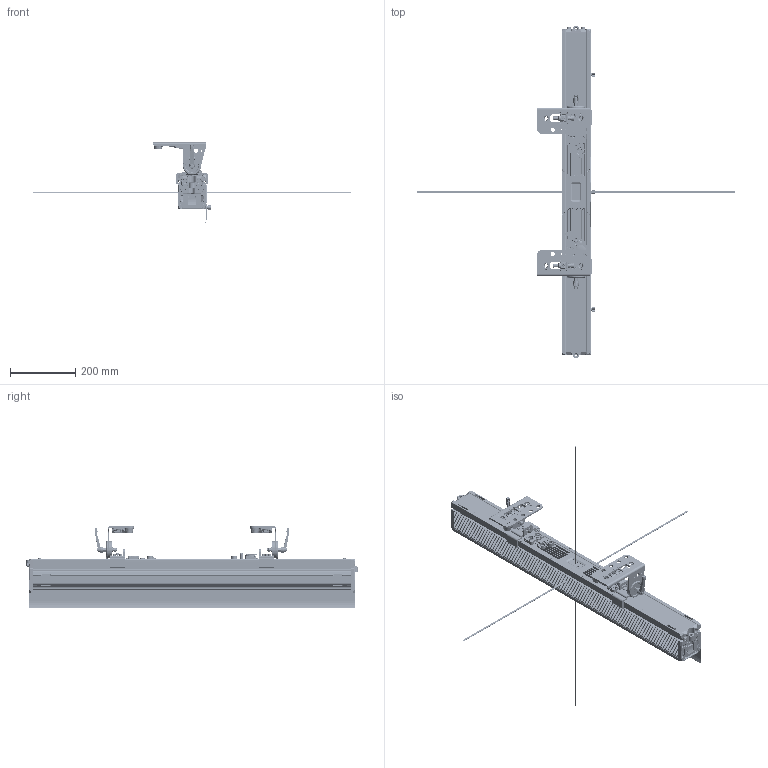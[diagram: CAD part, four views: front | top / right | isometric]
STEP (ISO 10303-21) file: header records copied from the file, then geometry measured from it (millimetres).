
FILE_DESCRIPTION(('HOOPS Exchange Step'),'2;1');
FILE_NAME('E:\cdb\hoops_acs\acs\9788\78027\018199-1-Light Fixture.step','2024-05-13T16:08:29+02:00',('caddok'),('Unknown organisation'),'HOOPS Exchange 2024.0','HOOPS Exchange','Unknown authorisation');
FILE_SCHEMA( ('AP242_MANAGED_MODEL_BASED_3D_ENGINEERING_MIM_LF {1 0 10303 442 1 1 4 }') );
Length unit declared in the file: millimetre
Products named in the file (126): Final_CLPB400G2_LJ-L21901-01-1; Final_CLPB400G2_LJ-L21901-05-1; Final_CLPB400G2_CT-M3-28-1; Final_CLPB400G2_LJ-L20701-25-1; Final_CLPB400G2_LJ-L21901-02-1; Final_CLPB400G2_LJ-L20901-55-1; Final_CLPB400G2_BT-M4-12-1; Final_CLPB400G2_0002_ASM-1; Final_CLPB400G2_0002_ASM-2; Final_CLPB400G2_LJ-L21901-14-1; Final_CLPB400G2_LJ-L21901-13-1; Final_CLPB400G2_LJ-L21901-33-34-35-36-1; Final_CLPB400G2_0001_ASM-1; 017504-1-Side Part-1; Final_CLPB400G2_LJ-L21901-09-1; Final_CLPB400G2_LJ-L21901-15-1; Final_CLPB400G2_LJ-Y31202-40-1; Final_CLPB400G2_LJ-L21901-12-1; Final_CLPB400G2_CT-M3-1; Final_CLPB400G2_LJ-L21901-06-1; Final_CLPB400G2_LJ-L21901-29-1; Final_CLPB400G2_M4X60001-1; Final_CLPB400G2_CT-M3-6-1; Final_CLPB400G2_0004_ASM-1; Final_CLPB400G2_0003_ASM-1; 017505-1-Side Part-1; Final_CLPB400G2_LJ-L21901-11-1; Final_CLPB400G2_0005_ASM-1; Final_CLPB400G2_LJ-L21901-04-1; Final_CLPB400G2_LJ-L21901-10-1; Final_CLPB400G2_LJ-Y35902-22-1; Final_CLPB400G2_LJ-Y35901-12-1; Final_CLPB400G2_LJ-Y37001-21_3-1; Final_CLPB400G2_LJ-Y37001-21-1; Final_CLPB400G2_LJ-Y37001-21_4-1; Final_CLPB400G2_LJ-Y37001-21_2-1; Final_CLPB400G2_LJ-L21901-20_3-1; Final_CLPB400G2_LJ-L21901-20-1; Final_CLPB400G2_LJ-L21901-20_2-1; Final_CLPB400G2_Y421010001_ASM-1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
Assembly tree (226 placements, depth 6):
  018199-1-Light Fixture
    Standard
      Final_CLPB400G2_0001_ASM-1
        Final_CLPB400G2_LJ-L21901-01-1
        Final_CLPB400G2_LJ-L21901-05-1
        Final_CLPB400G2_CT-M3-28-1  x2
        Final_CLPB400G2_LJ-L20701-25-1  x2
        Final_CLPB400G2_0002_ASM-1
          Final_CLPB400G2_LJ-L21901-02-1
          Final_CLPB400G2_LJ-L20901-55-1
          Final_CLPB400G2_BT-M4-12-1  x8
        Final_CLPB400G2_0002_ASM-2
          Final_CLPB400G2_LJ-L21901-02-1
          Final_CLPB400G2_LJ-L20901-55-1
          Final_CLPB400G2_BT-M4-12-1  x8
        Final_CLPB400G2_BT-M4-12-1  x4
        Final_CLPB400G2_LJ-L21901-14-1
        Final_CLPB400G2_LJ-L21901-13-1
        Final_CLPB400G2_LJ-L21901-33-34-35-36-1
      Final_CLPB400G2_0003_ASM-1
        017504-1-Side Part-1
        Final_CLPB400G2_LJ-L21901-09-1
        Final_CLPB400G2_LJ-L21901-15-1
        Final_CLPB400G2_LJ-Y31202-40-1  x2
        Final_CLPB400G2_BT-M4-12-1  x6
        Final_CLPB400G2_LJ-L21901-12-1  x2
        Final_CLPB400G2_CT-M3-1  x6
        Final_CLPB400G2_LJ-L21901-06-1
        Final_CLPB400G2_0004_ASM-1
          Final_CLPB400G2_LJ-L21901-29-1
          Final_CLPB400G2_M4X60001-1
          Final_CLPB400G2_CT-M3-6-1  x2
      Final_CLPB400G2_0005_ASM-1
        017505-1-Side Part-1
        Final_CLPB400G2_LJ-L21901-15-1
        Final_CLPB400G2_BT-M4-12-1  x6
        Final_CLPB400G2_LJ-Y31202-40-1  x2
        Final_CLPB400G2_0004_ASM-1
          Final_CLPB400G2_LJ-L21901-29-1
          Final_CLPB400G2_M4X60001-1
          Final_CLPB400G2_CT-M3-6-1  x2
        Final_CLPB400G2_LJ-L21901-06-1
        Final_CLPB400G2_LJ-L21901-09-1
        Final_CLPB400G2_LJ-L21901-11-1  x2
        Final_CLPB400G2_CT-M3-1  x6
      Final_CLPB400G2_0006_ASM-1
        Final_CLPB400G2_LJ-L21901-04-1
        Final_CLPB400G2_LJ-L21901-10-1
        Final_CLPB400G2_Y421010001_ASM-1
          Final_CLPB400G2_LJ-Y35902-22-1
          Final_CLPB400G2_LJ-Y35901-12-1
          Final_CLPB400G2_LJ-Y37001-21-1
            Final_CLPB400G2_LJ-Y37001-21_3-1
            Final_CLPB400G2_LJ-Y37001-21-1
            Final_CLPB400G2_LJ-Y37001-21_4-1
            Final_CLPB400G2_LJ-Y37001-21_2-1
          Final_CLPB400G2_LJ-L21901-20-1
            Final_CLPB400G2_LJ-L21901-20_3-1
            Final_CLPB400G2_LJ-L21901-20-1
            Final_CLPB400G2_LJ-L21901-20_2-1
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Bounding box: 974 x 1018 x 974 mm (x, y, z)
Volume: 4110794.7 mm3; surface area: 2741875.5 mm2
Topology: 231 solids, 231 shells, 14099 faces, 38525 edges, 25305 vertices
Faces by surface type: plane 6804, cylinder 3687, bspline 1580, cone 1379, torus 580, sphere 69
Full cylindrical faces by diameter (mm): 1.6 x9, 1.987 x3, 2 x1, 2.2 x14, 2.3 x22, 2.4 x2, 2.459 x10, 2.5 x11, 2.6 x4, 2.7 x1, 2.89 x454, 3 x13, 3.2 x57, 3.3 x110, 3.4 x6, 3.5 x34, 4 x141, 4.5 x71, 4.6 x3, 5 x12, 5.1 x1, 5.2 x2, 5.5 x13, 5.8 x22, 5.95 x6, 6 x6, 6.2 x1, 6.5 x5, 6.6 x3, 6.66 x2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
Entity records: 606161 total; most frequent: CARTESIAN_POINT 354608, ORIENTED_EDGE 55488, DIRECTION 45593, EDGE_CURVE 27744, VERTEX_POINT 18451, AXIS2_PLACEMENT_3D 16197, VECTOR 13199, LINE 13199
